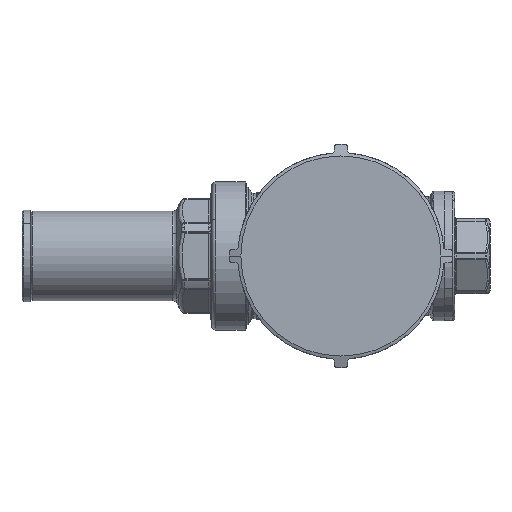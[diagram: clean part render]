
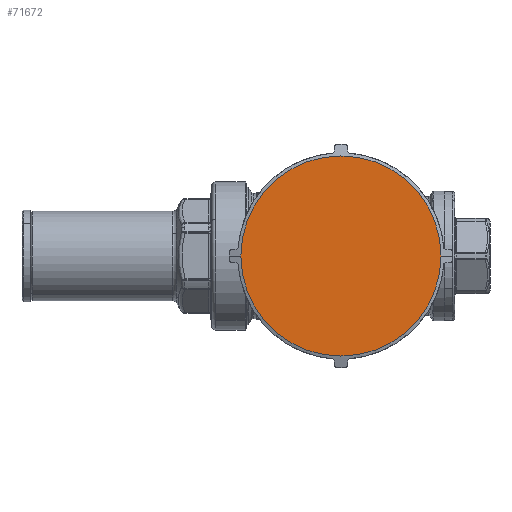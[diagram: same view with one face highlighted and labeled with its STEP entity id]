
A CAD part, left-side view. The second image highlights one B-rep face of the part: STEP entity #71672.
In plain terms, the highlighted planar face has unit normal (-1, 0, 0).
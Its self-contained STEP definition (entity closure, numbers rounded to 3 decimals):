
#15102 = CARTESIAN_POINT ( 'NONE',  ( -66.5, -3., 0. ) ) ;
#16132 = CARTESIAN_POINT ( 'NONE',  ( -66.5, -51., 0. ) ) ;
#18223 = AXIS2_PLACEMENT_3D ( 'NONE', #62588, #63547, #90893 ) ;
#30756 = DIRECTION ( 'NONE',  ( 1., 0., 0. ) ) ;
#33818 = AXIS2_PLACEMENT_3D ( 'NONE', #90656, #30756, #92524 ) ;
#39236 = VERTEX_POINT ( 'NONE', #16132 ) ;
#44263 = DIRECTION ( 'NONE',  ( -1., 0., 0. ) ) ;
#46078 = PLANE ( 'NONE',  #33818 ) ;
#47235 = CIRCLE ( 'NONE', #18223, 48. ) ;
#48829 = EDGE_CURVE ( 'NONE', #39236, #65246, #47235, .T. ) ;
#49059 = ORIENTED_EDGE ( 'NONE', *, *, #48829, .T. ) ;
#61405 = FACE_OUTER_BOUND ( 'NONE', #77195, .T. ) ;
#62588 = CARTESIAN_POINT ( 'NONE',  ( -66.5, -3., 0. ) ) ;
#63547 = DIRECTION ( 'NONE',  ( -1., 0., 0. ) ) ;
#65246 = VERTEX_POINT ( 'NONE', #83045 ) ;
#65700 = AXIS2_PLACEMENT_3D ( 'NONE', #15102, #44263, #81219 ) ;
#71672 = ADVANCED_FACE ( 'NONE', ( #61405 ), #46078, .F. ) ;
#75478 = ORIENTED_EDGE ( 'NONE', *, *, #90086, .T. ) ;
#77195 = EDGE_LOOP ( 'NONE', ( #75478, #49059 ) ) ;
#81219 = DIRECTION ( 'NONE',  ( 0., 0., 1. ) ) ;
#82632 = CIRCLE ( 'NONE', #65700, 48. ) ;
#83045 = CARTESIAN_POINT ( 'NONE',  ( -66.5, 45., 0. ) ) ;
#90086 = EDGE_CURVE ( 'NONE', #65246, #39236, #82632, .T. ) ;
#90656 = CARTESIAN_POINT ( 'NONE',  ( -66.5, 45., 0. ) ) ;
#90893 = DIRECTION ( 'NONE',  ( 0., 0., 1. ) ) ;
#92524 = DIRECTION ( 'NONE',  ( 0., 1., 0. ) ) ;
